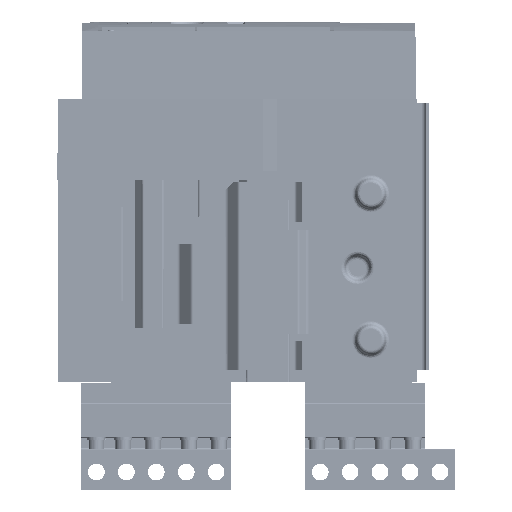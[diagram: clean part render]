
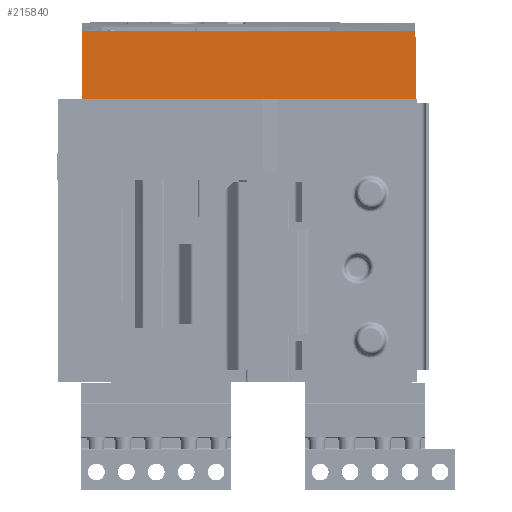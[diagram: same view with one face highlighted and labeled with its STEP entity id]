
A CAD part, left-side view. The second image highlights one B-rep face of the part: STEP entity #215840.
In plain terms, the highlighted planar face has unit normal (-1, 0, 0.009).
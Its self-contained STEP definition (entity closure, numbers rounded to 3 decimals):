
#2036 = ORIENTED_EDGE ( 'NONE', *, *, #578955, .T. ) ;
#12656 = EDGE_CURVE ( 'NONE', #237365, #378409, #459227, .T. ) ;
#22463 = DIRECTION ( 'NONE',  ( -1., 0., 0.009 ) ) ;
#69733 = ORIENTED_EDGE ( 'NONE', *, *, #12656, .F. ) ;
#79268 = EDGE_CURVE ( 'NONE', #680629, #237365, #337378, .T. ) ;
#113843 = CARTESIAN_POINT ( 'NONE',  ( 26.562, 132.161, 582.803 ) ) ;
#122507 = VERTEX_POINT ( 'NONE', #593974 ) ;
#129304 = DIRECTION ( 'NONE',  ( 0., 1., 0. ) ) ;
#157385 = CARTESIAN_POINT ( 'NONE',  ( 25.496, 411.352, 460.603 ) ) ;
#199220 = VECTOR ( 'NONE', #235785, 1000. ) ;
#213389 = EDGE_CURVE ( 'NONE', #122507, #378409, #370413, .T. ) ;
#215840 = ADVANCED_FACE ( 'NONE', ( #677368 ), #468172, .T. ) ;
#226439 = VECTOR ( 'NONE', #688197, 1000. ) ;
#235785 = DIRECTION ( 'NONE',  ( 0., 1., 0. ) ) ;
#237365 = VERTEX_POINT ( 'NONE', #705458 ) ;
#337378 = LINE ( 'NONE', #523280, #502142 ) ;
#354475 = CARTESIAN_POINT ( 'NONE',  ( 25.475, 130.573, 458.153 ) ) ;
#370413 = LINE ( 'NONE', #157385, #500602 ) ;
#378409 = VERTEX_POINT ( 'NONE', #691671 ) ;
#413062 = ORIENTED_EDGE ( 'NONE', *, *, #213389, .T. ) ;
#423883 = DIRECTION ( 'NONE',  ( -0.009, 0.009, -1. ) ) ;
#459227 = LINE ( 'NONE', #567572, #199220 ) ;
#468172 = PLANE ( 'NONE',  #651598 ) ;
#500602 = VECTOR ( 'NONE', #423883, 1000. ) ;
#502142 = VECTOR ( 'NONE', #578876, 1000. ) ;
#502921 = ORIENTED_EDGE ( 'NONE', *, *, #79268, .F. ) ;
#503838 = LINE ( 'NONE', #588871, #226439 ) ;
#523280 = CARTESIAN_POINT ( 'NONE',  ( 25.486, 131.084, 459.436 ) ) ;
#567572 = CARTESIAN_POINT ( 'NONE',  ( 26.068, 130.573, 526.153 ) ) ;
#578876 = DIRECTION ( 'NONE',  ( -0.009, -0.009, -1. ) ) ;
#578955 = EDGE_CURVE ( 'NONE', #680629, #122507, #503838, .T. ) ;
#588871 = CARTESIAN_POINT ( 'NONE',  ( 26.562, 130.573, 582.803 ) ) ;
#593974 = CARTESIAN_POINT ( 'NONE',  ( 26.562, 410.285, 582.803 ) ) ;
#651598 = AXIS2_PLACEMENT_3D ( 'NONE', #354475, #22463, #129304 ) ;
#672405 = EDGE_LOOP ( 'NONE', ( #413062, #69733, #502921, #2036 ) ) ;
#677368 = FACE_OUTER_BOUND ( 'NONE', #672405, .T. ) ;
#680629 = VERTEX_POINT ( 'NONE', #113843 ) ;
#688197 = DIRECTION ( 'NONE',  ( 0., 1., 0. ) ) ;
#691671 = CARTESIAN_POINT ( 'NONE',  ( 26.068, 410.78, 526.153 ) ) ;
#705458 = CARTESIAN_POINT ( 'NONE',  ( 26.068, 131.667, 526.153 ) ) ;
